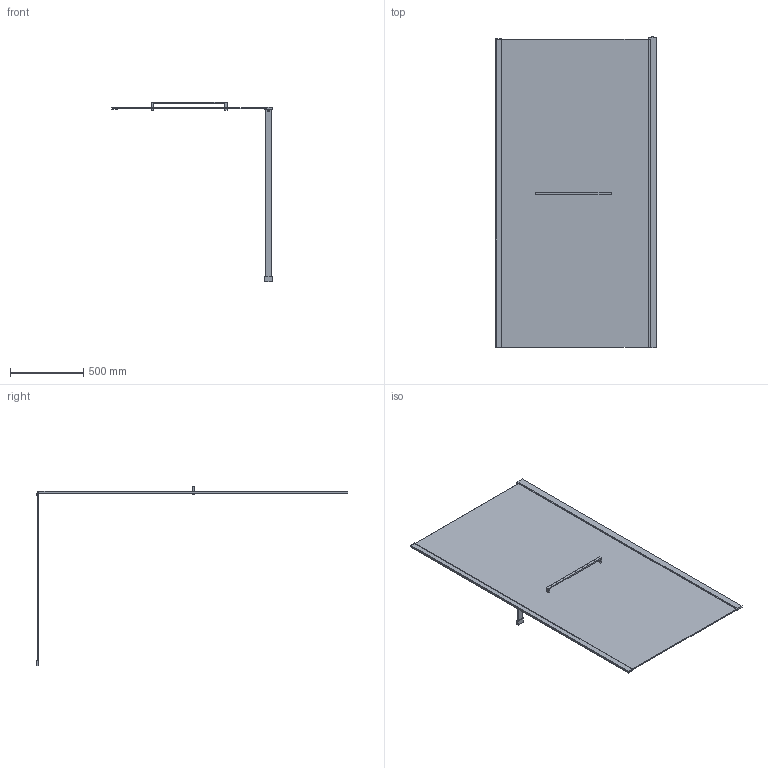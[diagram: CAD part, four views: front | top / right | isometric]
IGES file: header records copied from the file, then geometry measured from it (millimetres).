
Start section: SolidWorks IGES file using analytic representation for surfaces
Global section: file name: D:\Users\M.Szymanski\Desktop\Kabiny\PI_ALTIIa\PI_ALTIIa_110_wspornik poziomy_K3D.IGS; native system: SolidWorks 2011; preprocessor: SolidWorks 2011; author: M.Szymanski; date: 181002.134727; units: millimetre
Bounding box: 1096.4 x 2124.7 x 1223.1 mm (x, y, z)
Surface area: 5291358.3 mm2 (no closed solid volume)
Topology: 0 solids, 0 shells, 56 faces, 367 edges, 477 vertices
Faces by surface type: bspline 52, revolution 4
